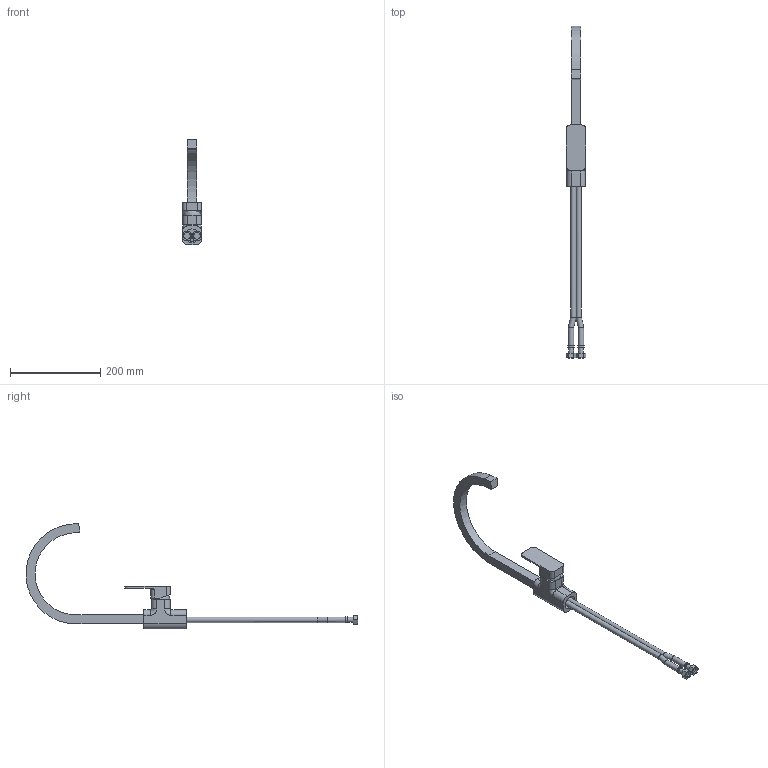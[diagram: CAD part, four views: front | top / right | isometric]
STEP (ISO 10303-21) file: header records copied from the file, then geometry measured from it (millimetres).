
FILE_DESCRIPTION(/* description */ ('LOFT Bateria kuchenna stojąca z dźwignią z boku'),/* implementation_level */ '2;1');
FILE_NAME(/* name */ 'C:\Nextcloud\02_biblioteki_cad\Valvex\Projekt\PROJECTS\Eksport\ETAP 2\2454960\2454960.stp',/* time_stamp */ '2021-08-02T11:32:54+02:00',/* author */ ('Cadventure'),/* organization */ (''),/* preprocessor_version */ 'ST-DEVELOPER v18.1',/* originating_system */ 'Autodesk Inventor 2020',/* authorisation */ '');
FILE_SCHEMA (('AUTOMOTIVE_DESIGN { 1 0 10303 214 3 1 1 }'));
Length unit declared in the file: millimetre
Products named in the file (1): 2454960
Bounding box: 43.94 x 734.79 x 233.92 mm (x, y, z)
Volume: 530424.8 mm3; surface area: 108132.9 mm2
Topology: 5 solids, 5 shells, 97 faces, 241 edges, 165 vertices
Faces by surface type: plane 54, cylinder 36, torus 6, sphere 1
Full cylindrical faces by diameter (mm): 8 x1, 9 x1, 11 x2, 12 x6, 14 x2, 15 x2, 30 x1
Entity records: 2989 total; most frequent: DIRECTION 537, CARTESIAN_POINT 521, ORIENTED_EDGE 480, EDGE_CURVE 240, AXIS2_PLACEMENT_3D 201, VERTEX_POINT 165, LINE 135, VECTOR 135
